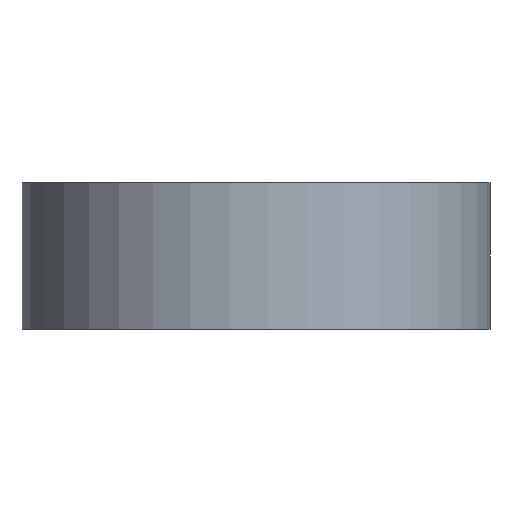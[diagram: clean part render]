
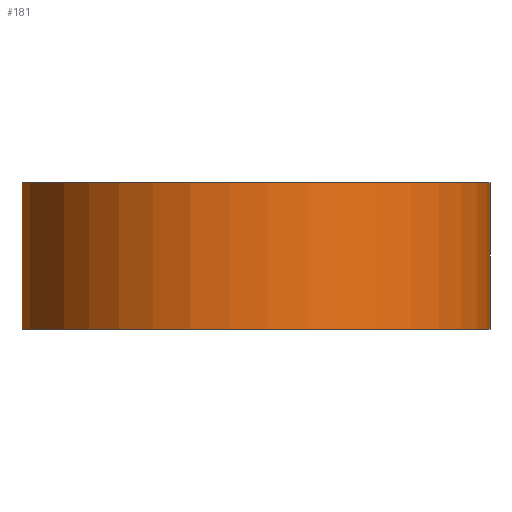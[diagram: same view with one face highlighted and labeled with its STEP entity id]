
A CAD part, front view. The second image highlights one B-rep face of the part: STEP entity #181.
In plain terms, the highlighted cylindrical face has radius 6.4 mm (diameter 12.8 mm), a partial arc.
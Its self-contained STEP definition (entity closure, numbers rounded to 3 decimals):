
#21 = EDGE_CURVE('',#22,#24,#26,.T.);
#22 = VERTEX_POINT('',#23);
#23 = CARTESIAN_POINT('',(-38.625,32.121,27.025));
#24 = VERTEX_POINT('',#25);
#25 = CARTESIAN_POINT('',(-31.225,25.8,27.025));
#26 = CIRCLE('',#27,6.4);
#27 = AXIS2_PLACEMENT_3D('',#28,#29,#30);
#28 = CARTESIAN_POINT('',(-37.625,25.8,27.025));
#29 = DIRECTION('',(0.,0.,1.));
#30 = DIRECTION('',(1.,0.,0.));
#32 = EDGE_CURVE('',#24,#33,#35,.T.);
#33 = VERTEX_POINT('',#34);
#34 = CARTESIAN_POINT('',(-36.625,32.121,27.025));
#35 = CIRCLE('',#36,6.4);
#36 = AXIS2_PLACEMENT_3D('',#37,#38,#39);
#37 = CARTESIAN_POINT('',(-37.625,25.8,27.025));
#38 = DIRECTION('',(0.,0.,1.));
#39 = DIRECTION('',(1.,0.,0.));
#82 = EDGE_CURVE('',#22,#83,#85,.T.);
#83 = VERTEX_POINT('',#84);
#84 = CARTESIAN_POINT('',(-38.625,32.121,31.025));
#85 = LINE('',#86,#87);
#86 = CARTESIAN_POINT('',(-38.625,32.121,27.025));
#87 = VECTOR('',#88,1.);
#88 = DIRECTION('',(0.,0.,1.));
#112 = EDGE_CURVE('',#83,#113,#115,.T.);
#113 = VERTEX_POINT('',#114);
#114 = CARTESIAN_POINT('',(-31.225,25.8,31.025));
#115 = CIRCLE('',#116,6.4);
#116 = AXIS2_PLACEMENT_3D('',#117,#118,#119);
#117 = CARTESIAN_POINT('',(-37.625,25.8,31.025));
#118 = DIRECTION('',(0.,0.,1.));
#119 = DIRECTION('',(1.,0.,0.));
#121 = EDGE_CURVE('',#113,#122,#124,.T.);
#122 = VERTEX_POINT('',#123);
#123 = CARTESIAN_POINT('',(-36.625,32.121,31.025));
#124 = CIRCLE('',#125,6.4);
#125 = AXIS2_PLACEMENT_3D('',#126,#127,#128);
#126 = CARTESIAN_POINT('',(-37.625,25.8,31.025));
#127 = DIRECTION('',(0.,0.,1.));
#128 = DIRECTION('',(1.,0.,0.));
#164 = EDGE_CURVE('',#33,#122,#165,.T.);
#165 = LINE('',#166,#167);
#166 = CARTESIAN_POINT('',(-36.625,32.121,27.025));
#167 = VECTOR('',#168,1.);
#168 = DIRECTION('',(0.,0.,1.));
#181 = ADVANCED_FACE('',(#182),#190,.T.);
#182 = FACE_BOUND('',#183,.T.);
#183 = EDGE_LOOP('',(#184,#185,#186,#187,#188,#189));
#184 = ORIENTED_EDGE('',*,*,#32,.T.);
#185 = ORIENTED_EDGE('',*,*,#164,.T.);
#186 = ORIENTED_EDGE('',*,*,#121,.F.);
#187 = ORIENTED_EDGE('',*,*,#112,.F.);
#188 = ORIENTED_EDGE('',*,*,#82,.F.);
#189 = ORIENTED_EDGE('',*,*,#21,.T.);
#190 = CYLINDRICAL_SURFACE('',#191,6.4);
#191 = AXIS2_PLACEMENT_3D('',#192,#193,#194);
#192 = CARTESIAN_POINT('',(-37.625,25.8,27.025));
#193 = DIRECTION('',(0.,0.,1.));
#194 = DIRECTION('',(1.,0.,0.));
